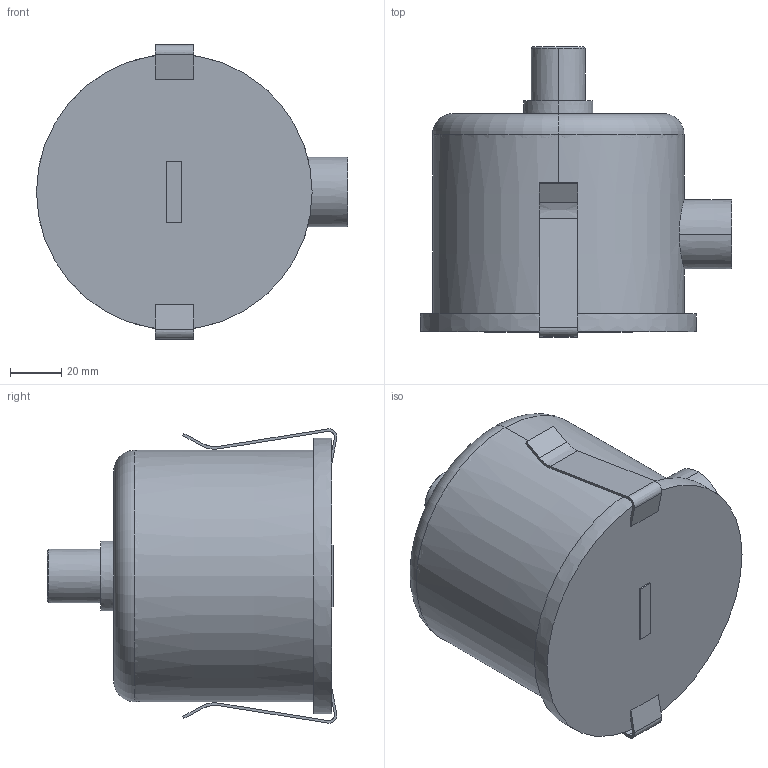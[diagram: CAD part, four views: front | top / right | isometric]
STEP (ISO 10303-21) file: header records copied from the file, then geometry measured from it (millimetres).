
FILE_DESCRIPTION((''),'2;1');
FILE_NAME('95150','2008-11-03T',('L2200144'),('Copyright by Leybold GmbH'),'PRO/ENGINEER BY PARAMETRIC TECHNOLOGY CORPORATION, 2007390','PRO/ENGINEER BY PARAMETRIC TECHNOLOGY CORPORATION, 2007390','');
FILE_SCHEMA(('AUTOMOTIVE_DESIGN { 1 0 10303 214 1 1 1 1 }'));
Length unit declared in the file: millimetre
Products named in the file (1): 95150
Bounding box: 121.2 x 112.97 x 114.67 mm (x, y, z)
Surface area: 112714.6 mm2 (no closed solid volume)
Topology: 0 solids, 0 shells, 71 faces, 328 edges, 326 vertices
Faces by surface type: bspline 67, torus 4
Entity records: 8116 total; most frequent: CARTESIAN_POINT 3732, COLOUR_RGB 1325, DIRECTION 498, TRIMMED_CURVE 422, VECTOR 354, LINE 354, DEFINITIONAL_REPRESENTATION 324, PCURVE 324
